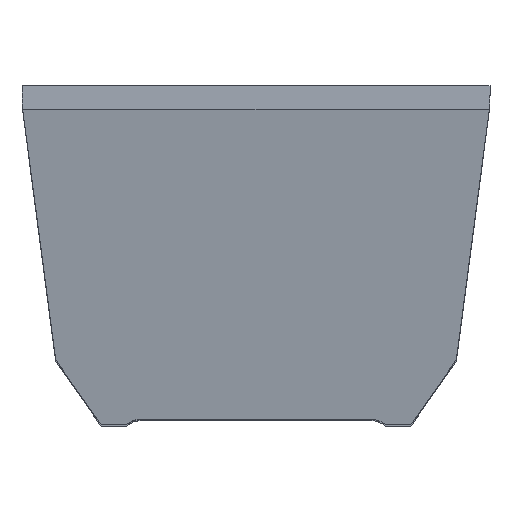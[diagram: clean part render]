
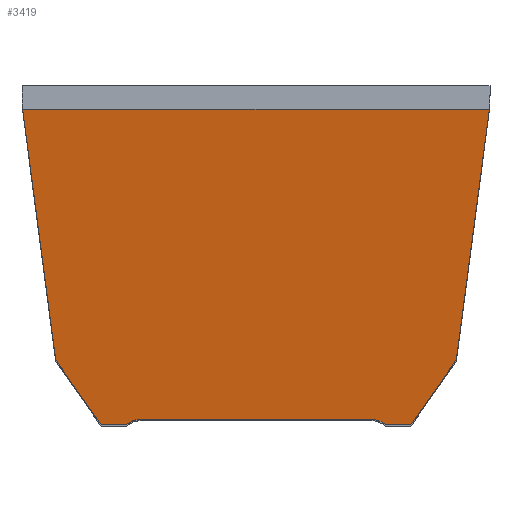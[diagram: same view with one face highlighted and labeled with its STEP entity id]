
A CAD part, top view. The second image highlights one B-rep face of the part: STEP entity #3419.
In plain terms, the highlighted planar face has unit normal (0, -0.147, 0.989).
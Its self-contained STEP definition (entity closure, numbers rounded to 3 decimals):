
#39 = LINE ( 'NONE', #2488, #44 ) ;
#44 = VECTOR ( 'NONE', #2481, 1000. ) ;
#108 = VECTOR ( 'NONE', #2324, 1000. ) ;
#111 = VECTOR ( 'NONE', #2332, 1000. ) ;
#112 = LINE ( 'NONE', #2334, #111 ) ;
#118 = LINE ( 'NONE', #2331, #108 ) ;
#145 = VECTOR ( 'NONE', #2457, 1000. ) ;
#161 = LINE ( 'NONE', #2504, #145 ) ;
#169 = EDGE_LOOP ( 'NONE', ( #841, #840, #839, #838, #837, #836, #835, #834, #833, #832, #831, #830 ) ) ;
#187 = VECTOR ( 'NONE', #3534, 1000. ) ;
#188 = LINE ( 'NONE', #1417, #187 ) ;
#280 = EDGE_CURVE ( 'NONE', #3610, #3687, #188, .T. ) ;
#298 = EDGE_CURVE ( 'NONE', #3588, #3500, #161, .T. ) ;
#314 = EDGE_CURVE ( 'NONE', #3703, #3489, #112, .T. ) ;
#316 = EDGE_CURVE ( 'NONE', #3677, #3610, #118, .T. ) ;
#353 = EDGE_CURVE ( 'NONE', #3489, #3584, #2537, .T. ) ;
#354 = EDGE_CURVE ( 'NONE', #3584, #3662, #39, .T. ) ;
#373 = EDGE_CURVE ( 'NONE', #3677, #3486, #2146, .T. ) ;
#412 = EDGE_CURVE ( 'NONE', #3687, #3703, #2538, .T. ) ;
#429 = EDGE_CURVE ( 'NONE', #3579, #3486, #2539, .T. ) ;
#432 = EDGE_CURVE ( 'NONE', #3588, #3616, #2540, .T. ) ;
#489 = EDGE_CURVE ( 'NONE', #3662, #3500, #2936, .T. ) ;
#505 = EDGE_CURVE ( 'NONE', #3616, #3579, #2926, .T. ) ;
#621 = AXIS2_PLACEMENT_3D ( 'NONE', #1978, #1984, #1985 ) ;
#830 = ORIENTED_EDGE ( 'NONE', *, *, #412, .F. ) ;
#831 = ORIENTED_EDGE ( 'NONE', *, *, #314, .F. ) ;
#832 = ORIENTED_EDGE ( 'NONE', *, *, #353, .F. ) ;
#833 = ORIENTED_EDGE ( 'NONE', *, *, #354, .F. ) ;
#834 = ORIENTED_EDGE ( 'NONE', *, *, #489, .F. ) ;
#835 = ORIENTED_EDGE ( 'NONE', *, *, #298, .T. ) ;
#836 = ORIENTED_EDGE ( 'NONE', *, *, #432, .F. ) ;
#837 = ORIENTED_EDGE ( 'NONE', *, *, #505, .F. ) ;
#838 = ORIENTED_EDGE ( 'NONE', *, *, #429, .F. ) ;
#839 = ORIENTED_EDGE ( 'NONE', *, *, #373, .T. ) ;
#840 = ORIENTED_EDGE ( 'NONE', *, *, #316, .F. ) ;
#841 = ORIENTED_EDGE ( 'NONE', *, *, #280, .F. ) ;
#1417 = CARTESIAN_POINT ( 'NONE',  ( -44.686, 53.369, 90.003 ) ) ;
#1523 = CARTESIAN_POINT ( 'NONE',  ( 38.099, 7.317, 83.178 ) ) ;
#1524 = DIRECTION ( 'NONE',  ( -0.569, -0.813, -0.121 ) ) ;
#1548 = CARTESIAN_POINT ( 'NONE',  ( -22., -3.21, 81.618 ) ) ;
#1557 = DIRECTION ( 'NONE',  ( -1., 0., 0. ) ) ;
#1975 = PLANE ( 'NONE',  #621 ) ;
#1978 = CARTESIAN_POINT ( 'NONE',  ( -285.056, 56.725, 90.5 ) ) ;
#1984 = DIRECTION ( 'NONE',  ( 0., 0.147, -0.989 ) ) ;
#1985 = DIRECTION ( 'NONE',  ( 0., -0.989, -0.147 ) ) ;
#2145 = VECTOR ( 'NONE', #2436, 1000. ) ;
#2146 = LINE ( 'NONE', #2437, #2145 ) ;
#2241 = CARTESIAN_POINT ( 'NONE',  ( 22., -3.21, 81.618 ) ) ;
#2242 = CARTESIAN_POINT ( 'NONE',  ( 23.144, -3.21, 81.618 ) ) ;
#2243 = CARTESIAN_POINT ( 'NONE',  ( 24.223, -3.587, 81.562 ) ) ;
#2248 = CARTESIAN_POINT ( 'NONE',  ( 25.117, -4.3, 81.456 ) ) ;
#2254 = CARTESIAN_POINT ( 'NONE',  ( -25.117, -4.3, 81.456 ) ) ;
#2255 = CARTESIAN_POINT ( 'NONE',  ( -24.223, -3.587, 81.562 ) ) ;
#2256 = CARTESIAN_POINT ( 'NONE',  ( -23.144, -3.21, 81.618 ) ) ;
#2261 = CARTESIAN_POINT ( 'NONE',  ( -22., -3.21, 81.618 ) ) ;
#2308 = CARTESIAN_POINT ( 'NONE',  ( -45.11, 56.725, 90.5 ) ) ;
#2309 = CARTESIAN_POINT ( 'NONE',  ( -45.077, 56.383, 90.449 ) ) ;
#2310 = CARTESIAN_POINT ( 'NONE',  ( -45.038, 56.041, 90.399 ) ) ;
#2317 = CARTESIAN_POINT ( 'NONE',  ( -44.993, 55.7, 90.348 ) ) ;
#2324 = DIRECTION ( 'NONE',  ( -0.569, 0.813, 0.121 ) ) ;
#2331 = CARTESIAN_POINT ( 'NONE',  ( -38.099, 7.317, 83.178 ) ) ;
#2332 = DIRECTION ( 'NONE',  ( 1., 0., 0. ) ) ;
#2334 = CARTESIAN_POINT ( 'NONE',  ( -15.25, 56.725, 90.5 ) ) ;
#2436 = DIRECTION ( 'NONE',  ( 1., 0., 0. ) ) ;
#2437 = CARTESIAN_POINT ( 'NONE',  ( -285.056, -4.3, 81.456 ) ) ;
#2457 = DIRECTION ( 'NONE',  ( 1., 0., 0. ) ) ;
#2481 = DIRECTION ( 'NONE',  ( -0.129, -0.981, -0.145 ) ) ;
#2482 = CARTESIAN_POINT ( 'NONE',  ( 44.993, 55.7, 90.348 ) ) ;
#2486 = CARTESIAN_POINT ( 'NONE',  ( 45.038, 56.041, 90.399 ) ) ;
#2487 = CARTESIAN_POINT ( 'NONE',  ( 45.077, 56.383, 90.449 ) ) ;
#2488 = CARTESIAN_POINT ( 'NONE',  ( 44.686, 53.369, 90.003 ) ) ;
#2491 = CARTESIAN_POINT ( 'NONE',  ( 45.11, 56.725, 90.5 ) ) ;
#2504 = CARTESIAN_POINT ( 'NONE',  ( -285.056, -4.3, 81.456 ) ) ;
#2537 =( BOUNDED_CURVE ( )  B_SPLINE_CURVE ( 3, ( #2491, #2487, #2486, #2482 ),
 .UNSPECIFIED., .F., .T. ) 
 B_SPLINE_CURVE_WITH_KNOTS ( ( 4, 4 ),
 ( 1.667, 1.702 ),
 .UNSPECIFIED. ) 
 CURVE ( )  GEOMETRIC_REPRESENTATION_ITEM ( )  RATIONAL_B_SPLINE_CURVE ( ( 1., 1., 1., 1. ) ) 
 REPRESENTATION_ITEM ( '' )  );
#2538 =( BOUNDED_CURVE ( )  B_SPLINE_CURVE ( 3, ( #2317, #2310, #2309, #2308 ),
 .UNSPECIFIED., .F., .T. ) 
 B_SPLINE_CURVE_WITH_KNOTS ( ( 4, 4 ),
 ( 4.581, 4.616 ),
 .UNSPECIFIED. ) 
 CURVE ( )  GEOMETRIC_REPRESENTATION_ITEM ( )  RATIONAL_B_SPLINE_CURVE ( ( 1., 1., 1., 1. ) ) 
 REPRESENTATION_ITEM ( '' )  );
#2539 =( BOUNDED_CURVE ( )  B_SPLINE_CURVE ( 3, ( #2261, #2256, #2255, #2254 ),
 .UNSPECIFIED., .F., .F. ) 
 B_SPLINE_CURVE_WITH_KNOTS ( ( 4, 4 ),
 ( 0., 0.673 ),
 .UNSPECIFIED. ) 
 CURVE ( )  GEOMETRIC_REPRESENTATION_ITEM ( )  RATIONAL_B_SPLINE_CURVE ( ( 1., 0.963, 0.963, 1. ) ) 
 REPRESENTATION_ITEM ( '' )  );
#2540 =( BOUNDED_CURVE ( )  B_SPLINE_CURVE ( 3, ( #2248, #2243, #2242, #2241 ),
 .UNSPECIFIED., .F., .F. ) 
 B_SPLINE_CURVE_WITH_KNOTS ( ( 4, 4 ),
 ( 5.61, 6.283 ),
 .UNSPECIFIED. ) 
 CURVE ( )  GEOMETRIC_REPRESENTATION_ITEM ( )  RATIONAL_B_SPLINE_CURVE ( ( 1., 0.963, 0.963, 1. ) ) 
 REPRESENTATION_ITEM ( '' )  );
#2678 = FACE_OUTER_BOUND ( 'NONE', #169, .T. ) ;
#2906 = VECTOR ( 'NONE', #1557, 1000. ) ;
#2926 = LINE ( 'NONE', #1548, #2906 ) ;
#2935 = VECTOR ( 'NONE', #1524, 1000. ) ;
#2936 = LINE ( 'NONE', #1523, #2935 ) ;
#3046 = CARTESIAN_POINT ( 'NONE',  ( -25.117, -4.3, 81.456 ) ) ;
#3049 = CARTESIAN_POINT ( 'NONE',  ( 45.11, 56.725, 90.5 ) ) ;
#3060 = CARTESIAN_POINT ( 'NONE',  ( 29.972, -4.3, 81.456 ) ) ;
#3118 = CARTESIAN_POINT ( 'NONE',  ( -22., -3.21, 81.618 ) ) ;
#3121 = CARTESIAN_POINT ( 'NONE',  ( 44.993, 55.7, 90.348 ) ) ;
#3123 = CARTESIAN_POINT ( 'NONE',  ( 25.117, -4.3, 81.456 ) ) ;
#3143 = CARTESIAN_POINT ( 'NONE',  ( -38.738, 8.23, 83.313 ) ) ;
#3149 = CARTESIAN_POINT ( 'NONE',  ( 22., -3.21, 81.618 ) ) ;
#3179 = CARTESIAN_POINT ( 'NONE',  ( 38.738, 8.23, 83.313 ) ) ;
#3194 = CARTESIAN_POINT ( 'NONE',  ( -29.972, -4.3, 81.456 ) ) ;
#3204 = CARTESIAN_POINT ( 'NONE',  ( -44.993, 55.7, 90.348 ) ) ;
#3220 = CARTESIAN_POINT ( 'NONE',  ( -45.11, 56.725, 90.5 ) ) ;
#3419 = ADVANCED_FACE ( 'NONE', ( #2678 ), #1975, .F. ) ;
#3486 = VERTEX_POINT ( 'NONE', #3046 ) ;
#3489 = VERTEX_POINT ( 'NONE', #3049 ) ;
#3500 = VERTEX_POINT ( 'NONE', #3060 ) ;
#3534 = DIRECTION ( 'NONE',  ( -0.129, 0.981, 0.145 ) ) ;
#3579 = VERTEX_POINT ( 'NONE', #3118 ) ;
#3584 = VERTEX_POINT ( 'NONE', #3121 ) ;
#3588 = VERTEX_POINT ( 'NONE', #3123 ) ;
#3610 = VERTEX_POINT ( 'NONE', #3143 ) ;
#3616 = VERTEX_POINT ( 'NONE', #3149 ) ;
#3662 = VERTEX_POINT ( 'NONE', #3179 ) ;
#3677 = VERTEX_POINT ( 'NONE', #3194 ) ;
#3687 = VERTEX_POINT ( 'NONE', #3204 ) ;
#3703 = VERTEX_POINT ( 'NONE', #3220 ) ;
